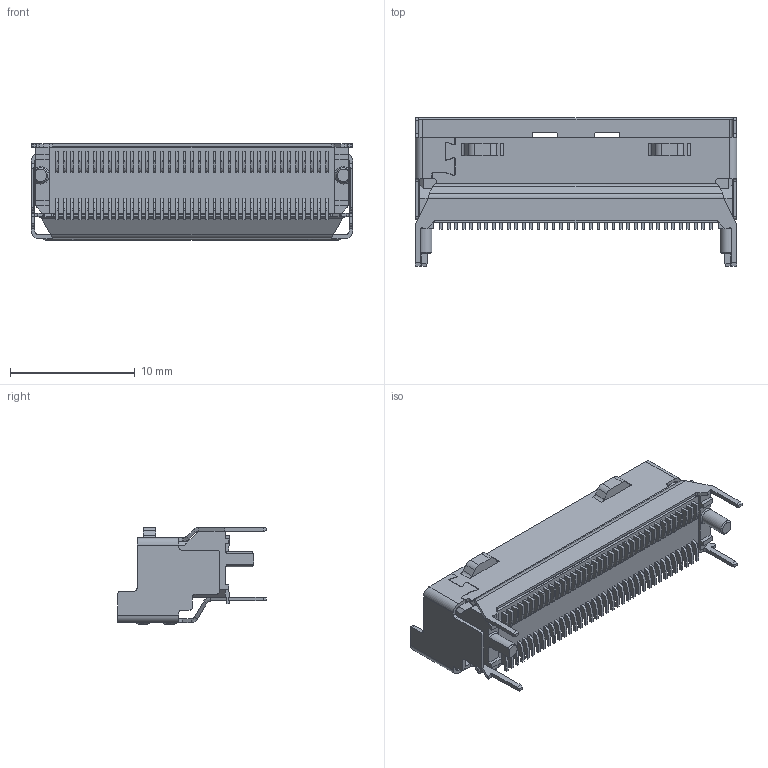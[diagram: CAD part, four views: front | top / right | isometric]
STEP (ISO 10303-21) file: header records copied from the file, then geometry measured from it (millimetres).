
FILE_DESCRIPTION((''),'2;1');
FILE_NAME('PMC074-3X0X-XXX-XH_CUSTOMER_10','2026-07-20T13:53:34',('39002408'),(''),'CREO PARAMETRIC BY PTC INC, 2019471','CREO PARAMETRIC BY PTC INC, 2019471','');
FILE_SCHEMA(('AUTOMOTIVE_DESIGN { 1 0 10303 214 1 1 1 1 }'));
Length unit declared in the file: millimetre
Products named in the file (1): PMC074-3X0X-XXX-XH_CUSTOMER_10
Bounding box: 25.8 x 11.9 x 7.77 mm (x, y, z)
Volume: 780.4 mm3; surface area: 2074.7 mm2
Topology: 1 solids, 1 shells, 1349 faces, 3626 edges, 2394 vertices
Faces by surface type: plane 1008, cylinder 315, bspline 20, cone 6
Entity records: 42678 total; most frequent: CARTESIAN_POINT 8051, ORIENTED_EDGE 7252, DIRECTION 6878, EDGE_CURVE 3626, VECTOR 2918, LINE 2918, VERTEX_POINT 2394, AXIS2_PLACEMENT_3D 1980
